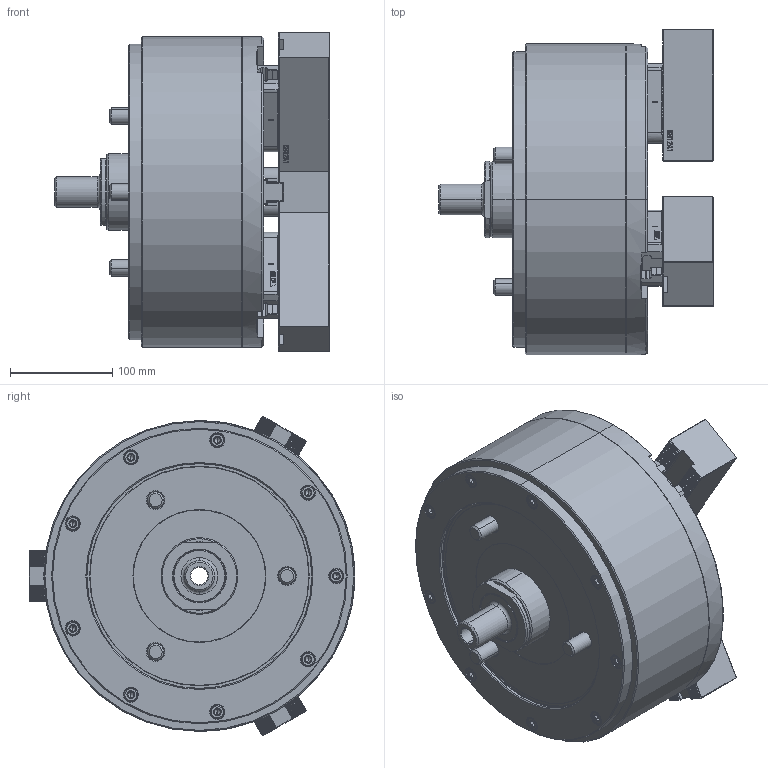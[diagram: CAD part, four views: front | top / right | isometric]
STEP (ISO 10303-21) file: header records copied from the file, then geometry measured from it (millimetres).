
FILE_DESCRIPTION (( 'STEP AP214' ), '1' );
FILE_NAME ('DL212_OC_ID.STEP', '2019-11-29T06:53:33', ( '' ), ( '' ), 'SwSTEP 2.0', 'SolidWorks 2017', '' );
FILE_SCHEMA (( 'AUTOMOTIVE_DESIGN' ));
Length unit declared in the file: millimetre
Products named in the file (5): DL212_OC_ID; 結合_ID; 0030114040; 61P458879; 61P851659
Assembly tree (13 placements, depth 2):
  DL212_OC_ID
    61P851659  x3
    61P458879  x3
    0030114040  x6
    結合_ID
Bounding box: 268.59 x 318.45 x 312.7 mm (x, y, z)
Volume: 10162240.5 mm3; surface area: 579146.3 mm2
Topology: 13 solids, 13 shells, 6373 faces, 17498 edges, 11373 vertices
Faces by surface type: plane 4461, cylinder 747, bspline 686, cone 451, torus 28
Entity records: 171534 total; most frequent: CARTESIAN_POINT 55997, ORIENTED_EDGE 26028, DIRECTION 20560, EDGE_CURVE 13014, VECTOR 9586, LINE 9586, VERTEX_POINT 8478, AXIS2_PLACEMENT_3D 5487
